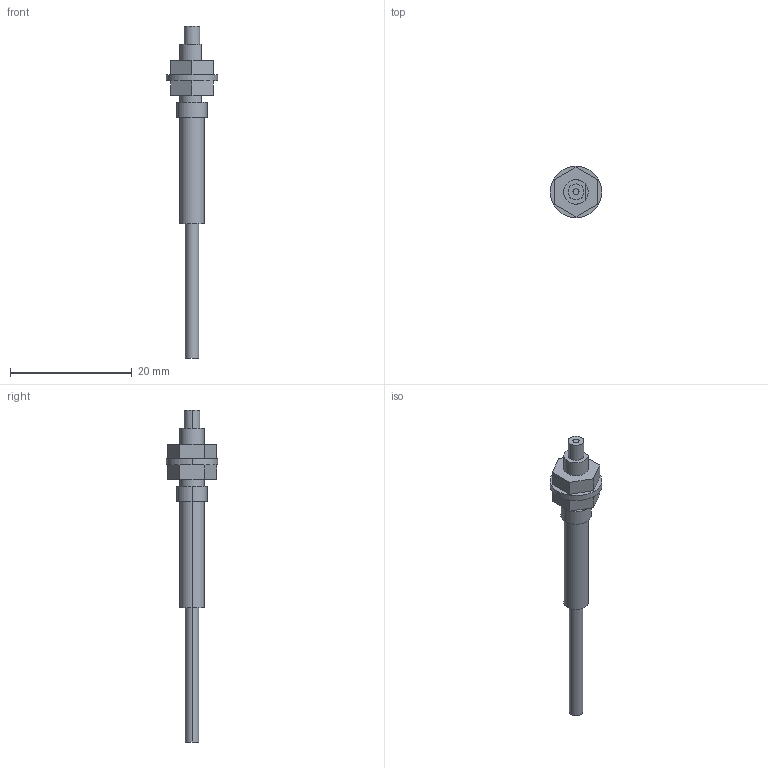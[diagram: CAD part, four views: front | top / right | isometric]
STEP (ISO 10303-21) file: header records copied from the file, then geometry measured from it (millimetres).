
FILE_DESCRIPTION (( 'STEP AP203' ), '1' );
FILE_NAME ('FT-W8.STEP', '2005-09-05T06:44:57', ( '' ), ( '' ), 'SwSTEP 2.0', 'SolidWorks 2004073', '' );
FILE_SCHEMA (( 'CONFIG_CONTROL_DESIGN' ));
Length unit declared in the file: millimetre
Products named in the file (1): FT-W8
Bounding box: 8.5 x 8.5 x 54.5 mm (x, y, z)
Volume: 666.8 mm3; surface area: 1016.2 mm2
Topology: 4 solids, 4 shells, 45 faces, 96 edges, 64 vertices
Faces by surface type: plane 26, cylinder 19
Entity records: 1311 total; most frequent: DIRECTION 226, CARTESIAN_POINT 206, ORIENTED_EDGE 192, EDGE_CURVE 96, AXIS2_PLACEMENT_3D 84, VERTEX_POINT 64, VECTOR 58, LINE 58
